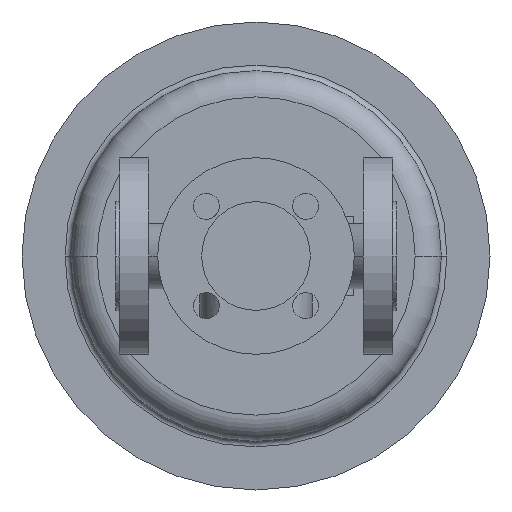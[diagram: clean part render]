
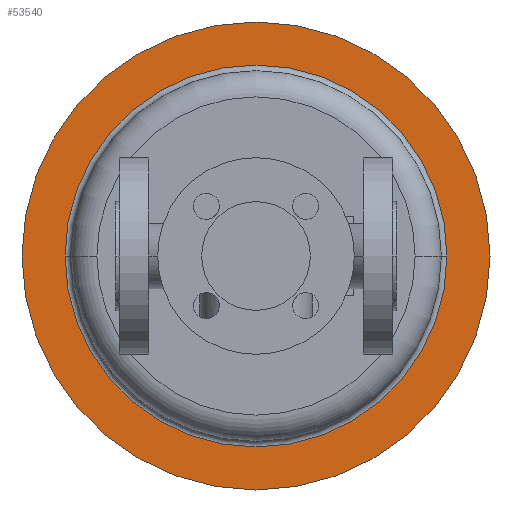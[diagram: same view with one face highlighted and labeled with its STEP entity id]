
A CAD part, front view. The second image highlights one B-rep face of the part: STEP entity #53540.
In plain terms, the highlighted planar face has unit normal (0, -1, 0).
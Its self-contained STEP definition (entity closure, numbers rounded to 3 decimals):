
#38830=CARTESIAN_POINT('',(200.,383.,0.));
#38840=VERTEX_POINT('',#38830);
#39000=CARTESIAN_POINT('',(-50.,383.,0.));
#39010=VERTEX_POINT('',#39000);
#39040=CARTESIAN_POINT('',(75.,383.,0.));
#39050=DIRECTION('',(0.,1.,0.));
#39060=DIRECTION('',(1.,0.,0.));
#39070=AXIS2_PLACEMENT_3D('',#39040,#39050,#39060);
#39080=CIRCLE('',#39070,125.);
#39090=EDGE_CURVE('',#38840,#39010,#39080,.T.);
#39260=CARTESIAN_POINT('',(-27.,383.,0.));
#39270=VERTEX_POINT('',#39260);
#39300=CARTESIAN_POINT('',(75.,383.,0.));
#39310=DIRECTION('',(0.,1.,0.));
#39320=DIRECTION('',(1.,0.,0.));
#39330=AXIS2_PLACEMENT_3D('',#39300,#39310,#39320);
#39340=CIRCLE('',#39330,102.);
#39350=CARTESIAN_POINT('',(177.,383.,0.));
#39360=VERTEX_POINT('',#39350);
#39370=EDGE_CURVE('',#39270,#39360,#39340,.T.);
#53350=CARTESIAN_POINT('',(188.5,383.,0.));
#53360=DIRECTION('',(0.,-1.,0.));
#53370=DIRECTION('',(-1.,0.,0.));
#53380=AXIS2_PLACEMENT_3D('',#53350,#53360,#53370);
#53390=PLANE('',#53380);
#53400=EDGE_CURVE('',#39010,#38840,#39080,.T.);
#53410=ORIENTED_EDGE('',*,*,#53400,.F.);
#53420=ORIENTED_EDGE('',*,*,#39090,.F.);
#53430=EDGE_LOOP('',(#53420,#53410));
#53440=FACE_OUTER_BOUND('',#53430,.T.);
#53450=ORIENTED_EDGE('',*,*,#39370,.T.);
#53460=CARTESIAN_POINT('',(75.,383.,-102.));
#53470=VERTEX_POINT('',#53460);
#53480=EDGE_CURVE('',#53470,#39270,#39340,.T.);
#53490=ORIENTED_EDGE('',*,*,#53480,.T.);
#53500=EDGE_CURVE('',#39360,#53470,#39340,.T.);
#53510=ORIENTED_EDGE('',*,*,#53500,.T.);
#53520=EDGE_LOOP('',(#53510,#53490,#53450));
#53530=FACE_BOUND('',#53520,.T.);
#53540=ADVANCED_FACE('',(#53440,#53530),#53390,.T.);
